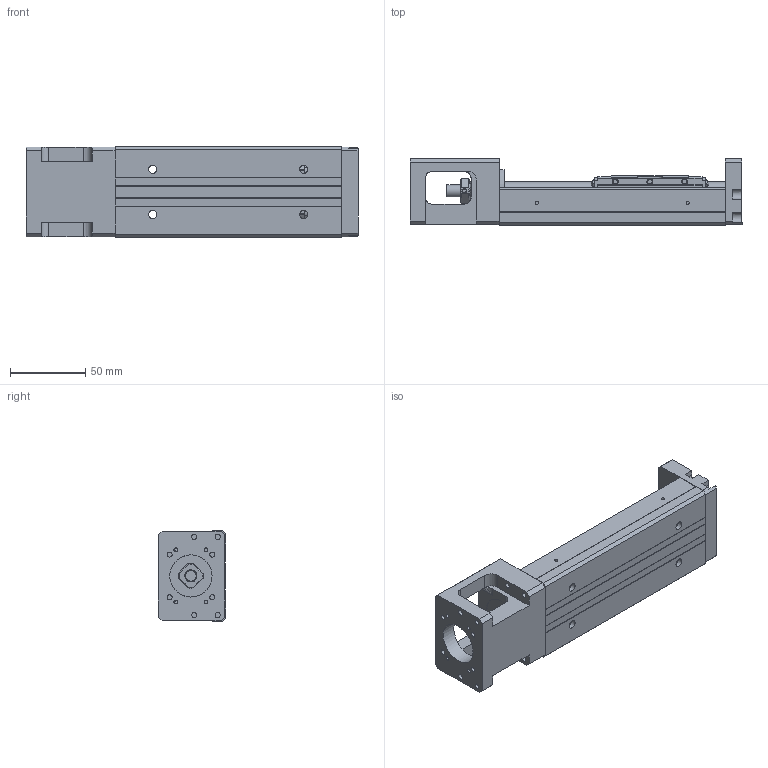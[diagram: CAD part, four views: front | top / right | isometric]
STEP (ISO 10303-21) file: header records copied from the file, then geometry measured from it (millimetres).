
FILE_DESCRIPTION(/* description */ (''),/* implementation_level */ '2;1');
FILE_NAME(/* name */ 'KP33N-150-D.stp',/* time_stamp */ '2020-06-04T13:55:11+08:00',/* author */ (''),/* organization */ (''),/* preprocessor_version */ 'ST-DEVELOPER v14',/* originating_system */ 'SIEMENS PLM Software NX 8.0',/* authorisation */ '');
FILE_SCHEMA (('AUTOMOTIVE_DESIGN { 1 0 10303 214 3 1 1 1 }'));
Length unit declared in the file: millimetre
Products named in the file (1): model1
Bounding box: 220 x 44.45 x 60 mm (x, y, z)
Volume: 310444.3 mm3; surface area: 87570.3 mm2
Topology: 5 solids, 10 shells, 604 faces, 1554 edges, 1024 vertices
Faces by surface type: plane 358, cylinder 159, bspline 31, cone 24, extrusion 21, torus 9, revolution 2
Full cylindrical faces by diameter (mm): 1.6 x2, 1.65 x4, 2.15 x2, 2.42 x4, 2.45 x4, 2.5 x4, 3 x3, 3.2 x4, 3.3 x4, 3.4 x3, 3.5 x10, 3.969 x1, 4 x6, 4.001 x1, 4.135 x4, 5.5 x4, 6 x4, 7.6 x1, 8 x5, 9.5 x4, 10.72 x3, 11.8 x2, 12 x1, 12.8 x1, 13 x2, 14 x1, 17.38 x3, 21.5 x1, 22 x2, 28 x1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
Entity records: 32465 total; most frequent: CARTESIAN_POINT 15208, DIRECTION 2764, ORIENTED_EDGE 2732, EDGE_CURVE 1366, VERTEX_POINT 961, AXIS2_PLACEMENT_3D 960, EDGE_LOOP 847, VECTOR 842
